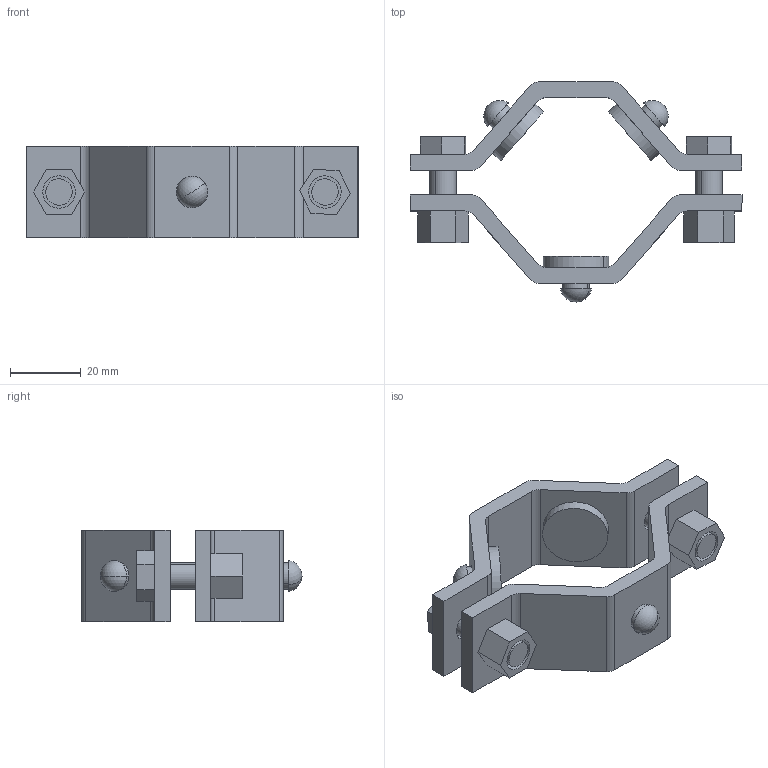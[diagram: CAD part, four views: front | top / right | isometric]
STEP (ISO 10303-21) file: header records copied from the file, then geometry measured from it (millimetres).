
FILE_DESCRIPTION (( 'STEP AP214' ), '1' );
FILE_NAME ('E24 1.5.STEP', '2025-07-16T18:14:18', ( '' ), ( '' ), 'SwSTEP 2.0', 'SolidWorks 2022', '' );
FILE_SCHEMA (( 'AUTOMOTIVE_DESIGN' ));
Length unit declared in the file: inch
Products named in the file (6): E24-2HOLE 1.5; E24BOLT; E24 1.5; E24-1HOLE 1.5; E24GROMMET 1.5-4.0; E24NUT
Assembly tree (9 placements, depth 2):
  E24 1.5
    E24-1HOLE 1.5
    E24-2HOLE 1.5
    E24BOLT  x2
    E24GROMMET 1.5-4.0  x3
    E24NUT  x2
Bounding box: 94.01 x 62.31 x 26.01 mm (x, y, z)
Volume: 33582 mm3; surface area: 20775.3 mm2
Topology: 9 solids, 9 shells, 133 faces, 318 edges, 213 vertices
Faces by surface type: plane 73, cylinder 54, sphere 6
Entity records: 3116 total; most frequent: DIRECTION 522, CARTESIAN_POINT 490, ORIENTED_EDGE 464, EDGE_CURVE 232, AXIS2_PLACEMENT_3D 187, VERTEX_POINT 155, VECTOR 148, LINE 148
